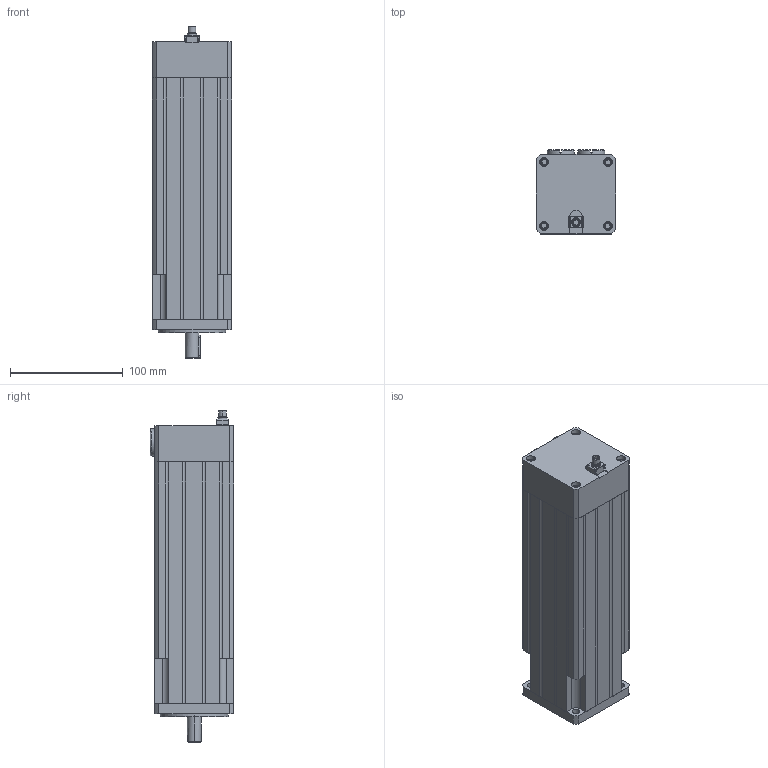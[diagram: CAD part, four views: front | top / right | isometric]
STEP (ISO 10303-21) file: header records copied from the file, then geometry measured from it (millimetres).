
FILE_DESCRIPTION (( 'STEP AP203' ), '1' );
FILE_NAME ('BTS070-02R2AC-EXD ZA.V1.STEP', '2023-03-08T02:15:56', ( 'Admin' ), ( '' ), 'SwSTEP 2.0', 'SolidWorks 2021', '' );
FILE_SCHEMA (( 'CONFIG_CONTROL_DESIGN' ));
Length unit declared in the file: millimetre
Products named in the file (1): BTS070-02R2AC-EXD  ZA.V1
Bounding box: 70 x 74 x 294 mm (x, y, z)
Volume: 1210049.6 mm3; surface area: 114581 mm2
Topology: 21 solids, 21 shells, 459 faces, 1098 edges, 704 vertices
Faces by surface type: plane 228, cylinder 176, torus 30, cone 25
Entity records: 13384 total; most frequent: DIRECTION 2409, CARTESIAN_POINT 2332, ORIENTED_EDGE 2152, EDGE_CURVE 1076, AXIS2_PLACEMENT_3D 885, VERTEX_POINT 704, LINE 639, VECTOR 639
